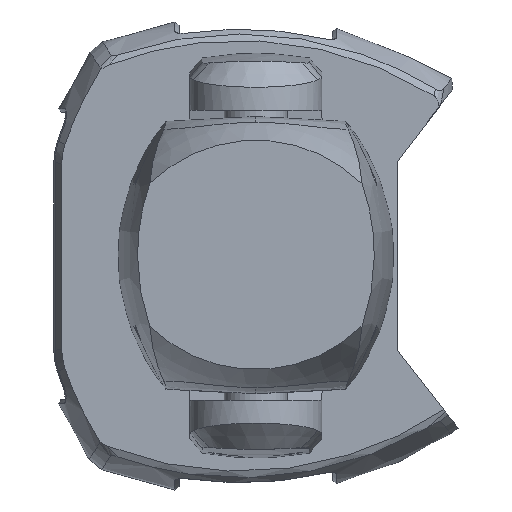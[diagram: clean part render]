
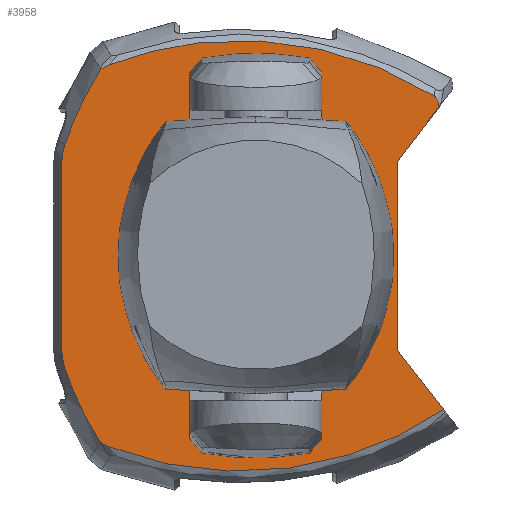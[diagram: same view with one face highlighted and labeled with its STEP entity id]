
A CAD part, top view. The second image highlights one B-rep face of the part: STEP entity #3958.
In plain terms, the highlighted planar face has unit normal (0, 0, 1).
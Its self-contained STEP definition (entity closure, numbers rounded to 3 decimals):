
#206=CIRCLE('',#4269,30.);
#284=PLANE('',#4268);
#362=LINE('',#5172,#483);
#363=LINE('',#5217,#484);
#364=LINE('',#5219,#485);
#365=LINE('',#5221,#486);
#483=VECTOR('',#4527,1000.);
#484=VECTOR('',#4532,1000.);
#485=VECTOR('',#4533,1000.);
#486=VECTOR('',#4534,1000.);
#607=ORIENTED_EDGE('',*,*,#1841,.T.);
#608=ORIENTED_EDGE('',*,*,#1842,.T.);
#609=ORIENTED_EDGE('',*,*,#1843,.T.);
#610=ORIENTED_EDGE('',*,*,#1840,.F.);
#611=ORIENTED_EDGE('',*,*,#1844,.T.);
#612=ORIENTED_EDGE('',*,*,#1845,.F.);
#613=ORIENTED_EDGE('',*,*,#1846,.T.);
#614=ORIENTED_EDGE('',*,*,#1847,.T.);
#615=ORIENTED_EDGE('',*,*,#1848,.F.);
#616=ORIENTED_EDGE('',*,*,#1849,.F.);
#617=ORIENTED_EDGE('',*,*,#1850,.F.);
#618=ORIENTED_EDGE('',*,*,#1851,.T.);
#619=ORIENTED_EDGE('',*,*,#1852,.T.);
#620=ORIENTED_EDGE('',*,*,#1853,.T.);
#1840=EDGE_CURVE('',#2457,#2454,#362,.T.);
#1841=EDGE_CURVE('',#2458,#2458,#206,.F.);
#1842=EDGE_CURVE('',#2459,#2460,#2874,.T.);
#1843=EDGE_CURVE('',#2460,#2454,#2875,.T.);
#1844=EDGE_CURVE('',#2457,#2461,#2876,.T.);
#1845=EDGE_CURVE('',#2462,#2461,#2877,.T.);
#1846=EDGE_CURVE('',#2462,#2463,#2878,.T.);
#1847=EDGE_CURVE('',#2463,#2464,#2879,.T.);
#1848=EDGE_CURVE('',#2465,#2464,#363,.T.);
#1849=EDGE_CURVE('',#2466,#2465,#364,.T.);
#1850=EDGE_CURVE('',#2467,#2466,#365,.T.);
#1851=EDGE_CURVE('',#2467,#2468,#2880,.T.);
#1852=EDGE_CURVE('',#2468,#2469,#2881,.T.);
#1853=EDGE_CURVE('',#2469,#2459,#2882,.T.);
#2454=VERTEX_POINT('',#5162);
#2457=VERTEX_POINT('',#5171);
#2458=VERTEX_POINT('',#5175);
#2459=VERTEX_POINT('',#5180);
#2460=VERTEX_POINT('',#5181);
#2461=VERTEX_POINT('',#5190);
#2462=VERTEX_POINT('',#5195);
#2463=VERTEX_POINT('',#5201);
#2464=VERTEX_POINT('',#5216);
#2465=VERTEX_POINT('',#5218);
#2466=VERTEX_POINT('',#5220);
#2467=VERTEX_POINT('',#5222);
#2468=VERTEX_POINT('',#5229);
#2469=VERTEX_POINT('',#5244);
#2874=B_SPLINE_CURVE_WITH_KNOTS('',3,(#5176,#5177,#5178,#5179),
 .UNSPECIFIED.,.F.,.F.,(4,4),(0.462,0.522),
 .UNSPECIFIED.);
#2875=B_SPLINE_CURVE_WITH_KNOTS('',3,(#5182,#5183,#5184,#5185),
 .UNSPECIFIED.,.F.,.F.,(4,4),(0.,0.014),
 .UNSPECIFIED.);
#2876=B_SPLINE_CURVE_WITH_KNOTS('',3,(#5186,#5187,#5188,#5189),
 .UNSPECIFIED.,.F.,.F.,(4,4),(0.,0.014),.UNSPECIFIED.);
#2877=B_SPLINE_CURVE_WITH_KNOTS('',3,(#5191,#5192,#5193,#5194),
 .UNSPECIFIED.,.F.,.F.,(4,4),(0.422,0.48),
 .UNSPECIFIED.);
#2878=B_SPLINE_CURVE_WITH_KNOTS('',3,(#5196,#5197,#5198,#5199,#5200),
 .UNSPECIFIED.,.F.,.F.,(4,1,4),(0.,0.003,0.007),
 .UNSPECIFIED.);
#2879=B_SPLINE_CURVE_WITH_KNOTS('',3,(#5202,#5203,#5204,#5205,#5206,#5207,
#5208,#5209,#5210,#5211,#5212,#5213,#5214,#5215),.UNSPECIFIED.,.F.,.F.,
(4,1,1,1,1,1,1,1,1,1,1,4),(0.,2.559,5.117,6.396,
7.676,10.234,11.514,12.793,15.352,
16.631,17.91,20.469),.UNSPECIFIED.);
#2880=B_SPLINE_CURVE_WITH_KNOTS('',3,(#5223,#5224,#5225,#5226,#5227,#5228),
 .UNSPECIFIED.,.F.,.F.,(4,1,1,4),(0.,0.004,0.007,
0.009),.UNSPECIFIED.);
#2881=B_SPLINE_CURVE_WITH_KNOTS('',3,(#5230,#5231,#5232,#5233,#5234,#5235,
#5236,#5237,#5238,#5239,#5240,#5241,#5242,#5243),.UNSPECIFIED.,.F.,.F.,
(4,1,1,1,1,1,1,1,1,1,1,4),(0.03,0.148,0.208,
0.267,0.326,0.386,0.504,
0.564,0.623,0.742,0.86,
0.979),.UNSPECIFIED.);
#2882=B_SPLINE_CURVE_WITH_KNOTS('',3,(#5245,#5246,#5247,#5248,#5249),
 .UNSPECIFIED.,.F.,.F.,(4,1,4),(0.,0.003,0.007),
 .UNSPECIFIED.);
#3271=EDGE_LOOP('',(#607));
#3272=EDGE_LOOP('',(#608,#609,#610,#611,#612,#613,#614,#615,#616,#617,#618,
#619,#620));
#3596=FACE_BOUND('',#3271,.T.);
#3597=FACE_BOUND('',#3272,.T.);
#3958=ADVANCED_FACE('',(#3596,#3597),#284,.T.);
#4268=AXIS2_PLACEMENT_3D('',#5173,#4528,#4529);
#4269=AXIS2_PLACEMENT_3D('',#5174,#4530,#4531);
#4527=DIRECTION('',(0.,1.,0.));
#4528=DIRECTION('',(0.,0.,1.));
#4529=DIRECTION('',(1.,0.,0.));
#4530=DIRECTION('',(0.,0.,1.));
#4531=DIRECTION('',(1.,0.,0.));
#4532=DIRECTION('',(0.616,-0.788,0.));
#4533=DIRECTION('',(0.,-1.,0.));
#4534=DIRECTION('',(-0.607,-0.795,0.));
#5162=CARTESIAN_POINT('',(-137.771,65.262,86.6));
#5171=CARTESIAN_POINT('',(-137.771,-65.924,86.6));
#5172=CARTESIAN_POINT('',(-137.771,-121.,86.6));
#5173=CARTESIAN_POINT('',(0.,0.,86.6));
#5174=CARTESIAN_POINT('',(0.,0.,86.6));
#5175=CARTESIAN_POINT('',(30.,0.,86.6));
#5176=CARTESIAN_POINT('',(-110.27,132.254,86.6));
#5177=CARTESIAN_POINT('',(-120.748,115.609,86.6));
#5178=CARTESIAN_POINT('',(-129.174,97.911,86.6));
#5179=CARTESIAN_POINT('',(-135.5,79.137,86.6));
#5180=CARTESIAN_POINT('',(-110.27,132.254,86.6));
#5181=CARTESIAN_POINT('',(-135.5,79.137,86.6));
#5182=CARTESIAN_POINT('',(-135.5,79.137,86.6));
#5183=CARTESIAN_POINT('',(-137.017,74.636,86.6));
#5184=CARTESIAN_POINT('',(-137.771,70.011,86.6));
#5185=CARTESIAN_POINT('',(-137.771,65.262,86.6));
#5186=CARTESIAN_POINT('',(-137.771,-65.924,86.6));
#5187=CARTESIAN_POINT('',(-137.771,-70.673,86.6));
#5188=CARTESIAN_POINT('',(-137.017,-75.298,86.6));
#5189=CARTESIAN_POINT('',(-135.5,-79.799,86.6));
#5190=CARTESIAN_POINT('',(-135.5,-79.799,86.6));
#5191=CARTESIAN_POINT('',(-110.837,-132.01,86.6));
#5192=CARTESIAN_POINT('',(-121.154,-115.465,86.6));
#5193=CARTESIAN_POINT('',(-129.35,-98.051,86.6));
#5194=CARTESIAN_POINT('',(-135.5,-79.799,86.6));
#5195=CARTESIAN_POINT('',(-110.837,-132.01,86.6));
#5196=CARTESIAN_POINT('',(-110.837,-132.01,86.6));
#5197=CARTESIAN_POINT('',(-109.932,-132.652,86.6));
#5198=CARTESIAN_POINT('',(-108.082,-133.867,86.6));
#5199=CARTESIAN_POINT('',(-106.121,-134.887,86.6));
#5200=CARTESIAN_POINT('',(-105.081,-135.292,86.6));
#5201=CARTESIAN_POINT('',(-105.081,-135.292,86.6));
#5202=CARTESIAN_POINT('',(-105.081,-135.292,86.6));
#5203=CARTESIAN_POINT('',(-95.399,-139.066,86.6));
#5204=CARTESIAN_POINT('',(-75.563,-145.456,86.6));
#5205=CARTESIAN_POINT('',(-49.99,-150.412,86.6));
#5206=CARTESIAN_POINT('',(-29.315,-152.515,86.6));
#5207=CARTESIAN_POINT('',(-8.483,-153.377,86.6));
#5208=CARTESIAN_POINT('',(12.315,-152.364,86.6));
#5209=CARTESIAN_POINT('',(32.893,-149.489,86.6));
#5210=CARTESIAN_POINT('',(53.333,-145.367,86.6));
#5211=CARTESIAN_POINT('',(73.283,-139.438,86.6));
#5212=CARTESIAN_POINT('',(92.634,-131.737,86.6));
#5213=CARTESIAN_POINT('',(111.405,-122.923,86.6));
#5214=CARTESIAN_POINT('',(124.883,-115.041,86.6));
#5215=CARTESIAN_POINT('',(133.596,-109.223,86.6));
#5216=CARTESIAN_POINT('',(133.596,-109.223,86.6));
#5217=CARTESIAN_POINT('',(128.69,-102.944,86.6));
#5218=CARTESIAN_POINT('',(100.712,-67.134,86.6));
#5219=CARTESIAN_POINT('',(100.712,67.134,86.6));
#5220=CARTESIAN_POINT('',(100.712,67.134,86.6));
#5221=CARTESIAN_POINT('',(171.393,159.746,86.6));
#5222=CARTESIAN_POINT('',(130.281,105.878,86.6));
#5223=CARTESIAN_POINT('',(130.281,105.878,86.6));
#5224=CARTESIAN_POINT('',(130.119,107.344,86.6));
#5225=CARTESIAN_POINT('',(129.691,109.505,86.6));
#5226=CARTESIAN_POINT('',(128.377,112.18,86.6));
#5227=CARTESIAN_POINT('',(127.354,113.268,86.6));
#5228=CARTESIAN_POINT('',(126.72,113.664,86.6));
#5229=CARTESIAN_POINT('',(126.72,113.664,86.6));
#5230=CARTESIAN_POINT('',(126.721,113.665,86.6));
#5231=CARTESIAN_POINT('',(118.189,118.99,86.6));
#5232=CARTESIAN_POINT('',(105.001,126.195,86.6));
#5233=CARTESIAN_POINT('',(86.645,134.232,86.6));
#5234=CARTESIAN_POINT('',(72.475,139.483,86.6));
#5235=CARTESIAN_POINT('',(58.11,143.878,86.6));
#5236=CARTESIAN_POINT('',(38.562,148.643,86.6));
#5237=CARTESIAN_POINT('',(18.706,151.69,86.6));
#5238=CARTESIAN_POINT('',(-1.303,152.998,86.6));
#5239=CARTESIAN_POINT('',(-21.408,153.141,86.6));
#5240=CARTESIAN_POINT('',(-46.448,151.148,86.6));
#5241=CARTESIAN_POINT('',(-76.02,145.293,86.6));
#5242=CARTESIAN_POINT('',(-95.163,139.132,86.6));
#5243=CARTESIAN_POINT('',(-104.51,135.514,86.6));
#5244=CARTESIAN_POINT('',(-104.51,135.514,86.6));
#5245=CARTESIAN_POINT('',(-104.51,135.514,86.6));
#5246=CARTESIAN_POINT('',(-105.549,135.112,86.6));
#5247=CARTESIAN_POINT('',(-107.511,134.099,86.6));
#5248=CARTESIAN_POINT('',(-109.363,132.892,86.6));
#5249=CARTESIAN_POINT('',(-110.27,132.254,86.6));
